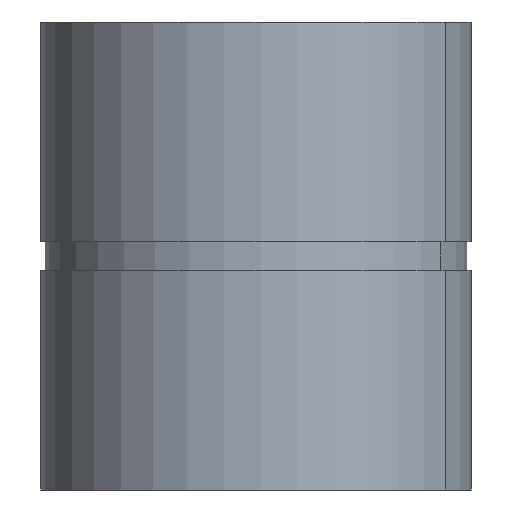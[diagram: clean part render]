
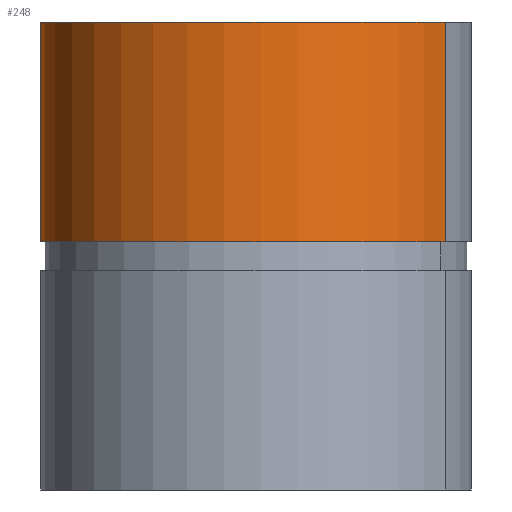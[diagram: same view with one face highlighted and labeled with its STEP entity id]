
A CAD part, left-side view. The second image highlights one B-rep face of the part: STEP entity #248.
In plain terms, the highlighted cylindrical face has radius 46.04 mm (diameter 92.08 mm), a partial arc.
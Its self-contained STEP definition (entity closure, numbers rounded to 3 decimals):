
#132=CARTESIAN_POINT('Vertex',(22.073,40.404,0.)) ;
#134=CARTESIAN_POINT('Vertex',(-22.073,-40.404,0.)) ;
#137=CARTESIAN_POINT('Axis2P3D Location',(0.,0.,0.)) ;
#206=CARTESIAN_POINT('Line Origine',(22.073,40.404,-50.)) ;
#210=CARTESIAN_POINT('Vertex',(22.073,40.404,-47.)) ;
#213=CARTESIAN_POINT('Line Origine',(-22.073,-40.404,-50.)) ;
#217=CARTESIAN_POINT('Vertex',(-22.073,-40.404,-47.)) ;
#232=CARTESIAN_POINT('Axis2P3D Location',(0.,0.,-50.)) ;
#237=CARTESIAN_POINT('Axis2P3D Location',(0.,0.,-47.)) ;
#138=DIRECTION('Axis2P3D Direction',(0.,0.,-1.)) ;
#207=DIRECTION('Vector Direction',(0.,0.,-1.)) ;
#214=DIRECTION('Vector Direction',(0.,0.,-1.)) ;
#233=DIRECTION('Axis2P3D Direction',(-0.,0.,-1.)) ;
#234=DIRECTION('Axis2P3D XDirection',(-0.479,-0.878,0.)) ;
#238=DIRECTION('Axis2P3D Direction',(-0.,0.,-1.)) ;
#139=AXIS2_PLACEMENT_3D('Circle Axis2P3D',#137,#138,$) ;
#235=AXIS2_PLACEMENT_3D('Cylinder Axis2P3D',#232,#233,#234) ;
#239=AXIS2_PLACEMENT_3D('Circle Axis2P3D',#237,#238,$) ;
#243=ORIENTED_EDGE('',*,*,#219,.T.) ;
#244=ORIENTED_EDGE('',*,*,#141,.T.) ;
#245=ORIENTED_EDGE('',*,*,#212,.F.) ;
#246=ORIENTED_EDGE('',*,*,#241,.F.) ;
#208=VECTOR('Line Direction',#207,1.) ;
#215=VECTOR('Line Direction',#214,1.) ;
#248=ADVANCED_FACE('PartBody',(#247),#236,.T.) ;
#140=CIRCLE('generated circle',#139,46.04) ;
#240=CIRCLE('generated circle',#239,46.04) ;
#236=CYLINDRICAL_SURFACE('generated cylinder',#235,46.04) ;
#141=EDGE_CURVE('',#135,#133,#140,.T.) ;
#212=EDGE_CURVE('',#211,#133,#209,.F.) ;
#219=EDGE_CURVE('',#218,#135,#216,.F.) ;
#241=EDGE_CURVE('',#218,#211,#240,.T.) ;
#242=EDGE_LOOP('',(#243,#244,#245,#246)) ;
#247=FACE_OUTER_BOUND('',#242,.T.) ;
#209=LINE('Line',#206,#208) ;
#216=LINE('Line',#213,#215) ;
#133=VERTEX_POINT('',#132) ;
#135=VERTEX_POINT('',#134) ;
#211=VERTEX_POINT('',#210) ;
#218=VERTEX_POINT('',#217) ;
